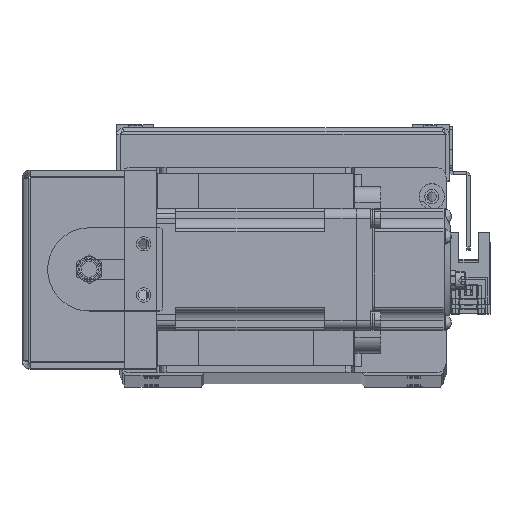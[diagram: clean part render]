
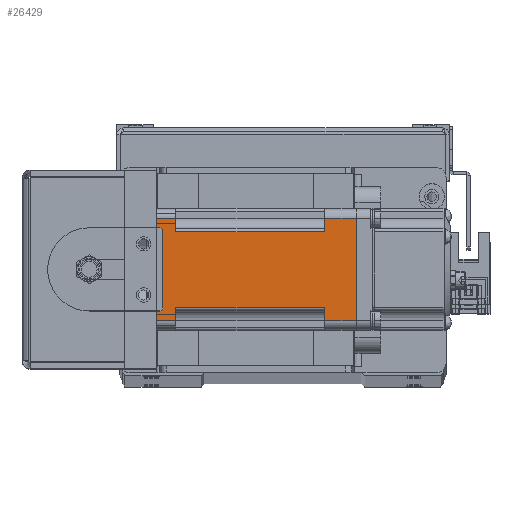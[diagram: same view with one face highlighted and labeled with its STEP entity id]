
A CAD part, top view. The second image highlights one B-rep face of the part: STEP entity #26429.
In plain terms, the highlighted planar face has unit normal (0, 0, 1) as drawn and (0, -1, 0) by its records, which use the part's own axes.
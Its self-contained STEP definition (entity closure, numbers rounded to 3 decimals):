
#1030 = ORIENTED_EDGE ( 'NONE', *, *, #36504, .T. ) ;
#1171 = CARTESIAN_POINT ( 'NONE',  ( -6., -19., -16. ) ) ;
#1752 = VERTEX_POINT ( 'NONE', #26013 ) ;
#2437 = VECTOR ( 'NONE', #32533, 1000. ) ;
#3492 = PLANE ( 'NONE',  #31336 ) ;
#3634 = EDGE_CURVE ( 'NONE', #17569, #37111, #37726, .T. ) ;
#3706 = DIRECTION ( 'NONE',  ( 0., 0., 1. ) ) ;
#3765 = VERTEX_POINT ( 'NONE', #21099 ) ;
#3929 = DIRECTION ( 'NONE',  ( -1., 0., 0. ) ) ;
#4266 = CARTESIAN_POINT ( 'NONE',  ( 0., -19., -16. ) ) ;
#4333 = LINE ( 'NONE', #34462, #34719 ) ;
#4397 = CARTESIAN_POINT ( 'NONE',  ( -6., -19., 11.85 ) ) ;
#5883 = EDGE_CURVE ( 'NONE', #13596, #28442, #25819, .T. ) ;
#6339 = CARTESIAN_POINT ( 'NONE',  ( -52.5, -19., -16. ) ) ;
#6427 = EDGE_CURVE ( 'NONE', #22206, #15368, #31885, .T. ) ;
#6448 = ORIENTED_EDGE ( 'NONE', *, *, #14326, .T. ) ;
#6610 = VECTOR ( 'NONE', #3706, 1000. ) ;
#6818 = ORIENTED_EDGE ( 'NONE', *, *, #17451, .T. ) ;
#6866 = ORIENTED_EDGE ( 'NONE', *, *, #31724, .T. ) ;
#7113 = ORIENTED_EDGE ( 'NONE', *, *, #11648, .T. ) ;
#7197 = VECTOR ( 'NONE', #9380, 1000. ) ;
#7794 = VERTEX_POINT ( 'NONE', #38122 ) ;
#7893 = DIRECTION ( 'NONE',  ( 0., 0., 1. ) ) ;
#7988 = CARTESIAN_POINT ( 'NONE',  ( -6., -19., -11.85 ) ) ;
#8019 = VECTOR ( 'NONE', #22548, 1000. ) ;
#8302 = LINE ( 'NONE', #32634, #12242 ) ;
#9380 = DIRECTION ( 'NONE',  ( 0., 0., -1. ) ) ;
#9873 = DIRECTION ( 'NONE',  ( 0., 0., -1. ) ) ;
#10211 = LINE ( 'NONE', #16153, #8019 ) ;
#10634 = CARTESIAN_POINT ( 'NONE',  ( -6., -19., -11.85 ) ) ;
#11600 = VECTOR ( 'NONE', #35028, 1000. ) ;
#11648 = EDGE_CURVE ( 'NONE', #25833, #22206, #10211, .T. ) ;
#12187 = CARTESIAN_POINT ( 'NONE',  ( -6., -19., -16. ) ) ;
#12242 = VECTOR ( 'NONE', #17431, 1000. ) ;
#12686 = LINE ( 'NONE', #6339, #6610 ) ;
#13596 = VERTEX_POINT ( 'NONE', #7988 ) ;
#13775 = CARTESIAN_POINT ( 'NONE',  ( -52.5, -19., -16. ) ) ;
#14021 = DIRECTION ( 'NONE',  ( 1., 0., 0. ) ) ;
#14048 = CARTESIAN_POINT ( 'NONE',  ( 0., -19., -16. ) ) ;
#14326 = EDGE_CURVE ( 'NONE', #28442, #20470, #29432, .T. ) ;
#15368 = VERTEX_POINT ( 'NONE', #38717 ) ;
#15396 = CARTESIAN_POINT ( 'NONE',  ( -62.48, -19., 16. ) ) ;
#15632 = DIRECTION ( 'NONE',  ( 0., -1., 0. ) ) ;
#16056 = EDGE_CURVE ( 'NONE', #37111, #25833, #12686, .T. ) ;
#16153 = CARTESIAN_POINT ( 'NONE',  ( -6., -19., 16. ) ) ;
#16944 = VERTEX_POINT ( 'NONE', #22445 ) ;
#17431 = DIRECTION ( 'NONE',  ( 1., 0., 0. ) ) ;
#17451 = EDGE_CURVE ( 'NONE', #20470, #16944, #29211, .T. ) ;
#17525 = CARTESIAN_POINT ( 'NONE',  ( -6., -19., -16. ) ) ;
#17569 = VERTEX_POINT ( 'NONE', #32617 ) ;
#18156 = VECTOR ( 'NONE', #7893, 1000. ) ;
#18668 = LINE ( 'NONE', #36661, #33075 ) ;
#18732 = CARTESIAN_POINT ( 'NONE',  ( -62.48, -19., -16. ) ) ;
#20018 = CARTESIAN_POINT ( 'NONE',  ( -6., -19., -16. ) ) ;
#20470 = VERTEX_POINT ( 'NONE', #14048 ) ;
#21099 = CARTESIAN_POINT ( 'NONE',  ( -6., -19., 16. ) ) ;
#21397 = ORIENTED_EDGE ( 'NONE', *, *, #33177, .T. ) ;
#22206 = VERTEX_POINT ( 'NONE', #15396 ) ;
#22396 = ORIENTED_EDGE ( 'NONE', *, *, #5883, .T. ) ;
#22445 = CARTESIAN_POINT ( 'NONE',  ( 0., -19., 16. ) ) ;
#22548 = DIRECTION ( 'NONE',  ( -1., 0., 0. ) ) ;
#22722 = LINE ( 'NONE', #13775, #24219 ) ;
#23019 = CARTESIAN_POINT ( 'NONE',  ( -52.5, -19., 11.85 ) ) ;
#24155 = ORIENTED_EDGE ( 'NONE', *, *, #26667, .T. ) ;
#24219 = VECTOR ( 'NONE', #38329, 1000. ) ;
#24315 = DIRECTION ( 'NONE',  ( 1., 0., 0. ) ) ;
#24820 = VECTOR ( 'NONE', #14021, 1000. ) ;
#24996 = FACE_OUTER_BOUND ( 'NONE', #36826, .T. ) ;
#25819 = LINE ( 'NONE', #20018, #11600 ) ;
#25833 = VERTEX_POINT ( 'NONE', #28586 ) ;
#25878 = ORIENTED_EDGE ( 'NONE', *, *, #3634, .T. ) ;
#26013 = CARTESIAN_POINT ( 'NONE',  ( -52.5, -19., -11.85 ) ) ;
#26072 = ORIENTED_EDGE ( 'NONE', *, *, #6427, .T. ) ;
#26429 = ADVANCED_FACE ( 'NONE', ( #24996 ), #3492, .T. ) ;
#26667 = EDGE_CURVE ( 'NONE', #15368, #7794, #8302, .T. ) ;
#26993 = ORIENTED_EDGE ( 'NONE', *, *, #16056, .T. ) ;
#27858 = DIRECTION ( 'NONE',  ( 0., 0., -1. ) ) ;
#28442 = VERTEX_POINT ( 'NONE', #1171 ) ;
#28585 = ORIENTED_EDGE ( 'NONE', *, *, #32737, .T. ) ;
#28586 = CARTESIAN_POINT ( 'NONE',  ( -52.5, -19., 16. ) ) ;
#29211 = LINE ( 'NONE', #4266, #18156 ) ;
#29432 = LINE ( 'NONE', #12187, #32568 ) ;
#31336 = AXIS2_PLACEMENT_3D ( 'NONE', #17525, #15632, #9873 ) ;
#31724 = EDGE_CURVE ( 'NONE', #3765, #17569, #18668, .T. ) ;
#31885 = LINE ( 'NONE', #18732, #7197 ) ;
#32192 = LINE ( 'NONE', #10634, #24820 ) ;
#32533 = DIRECTION ( 'NONE',  ( -1., 0., 0. ) ) ;
#32568 = VECTOR ( 'NONE', #24315, 1000. ) ;
#32617 = CARTESIAN_POINT ( 'NONE',  ( -6., -19., 11.85 ) ) ;
#32634 = CARTESIAN_POINT ( 'NONE',  ( -6., -19., -16. ) ) ;
#32737 = EDGE_CURVE ( 'NONE', #1752, #13596, #32192, .T. ) ;
#33075 = VECTOR ( 'NONE', #27858, 1000. ) ;
#33177 = EDGE_CURVE ( 'NONE', #7794, #1752, #22722, .T. ) ;
#34462 = CARTESIAN_POINT ( 'NONE',  ( -6., -19., 16. ) ) ;
#34719 = VECTOR ( 'NONE', #3929, 1000. ) ;
#35028 = DIRECTION ( 'NONE',  ( 0., 0., -1. ) ) ;
#36504 = EDGE_CURVE ( 'NONE', #16944, #3765, #4333, .T. ) ;
#36661 = CARTESIAN_POINT ( 'NONE',  ( -6., -19., -16. ) ) ;
#36826 = EDGE_LOOP ( 'NONE', ( #26993, #7113, #26072, #24155, #21397, #28585, #22396, #6448, #6818, #1030, #6866, #25878 ) ) ;
#37111 = VERTEX_POINT ( 'NONE', #23019 ) ;
#37726 = LINE ( 'NONE', #4397, #2437 ) ;
#38122 = CARTESIAN_POINT ( 'NONE',  ( -52.5, -19., -16. ) ) ;
#38329 = DIRECTION ( 'NONE',  ( 0., 0., 1. ) ) ;
#38717 = CARTESIAN_POINT ( 'NONE',  ( -62.48, -19., -16. ) ) ;
